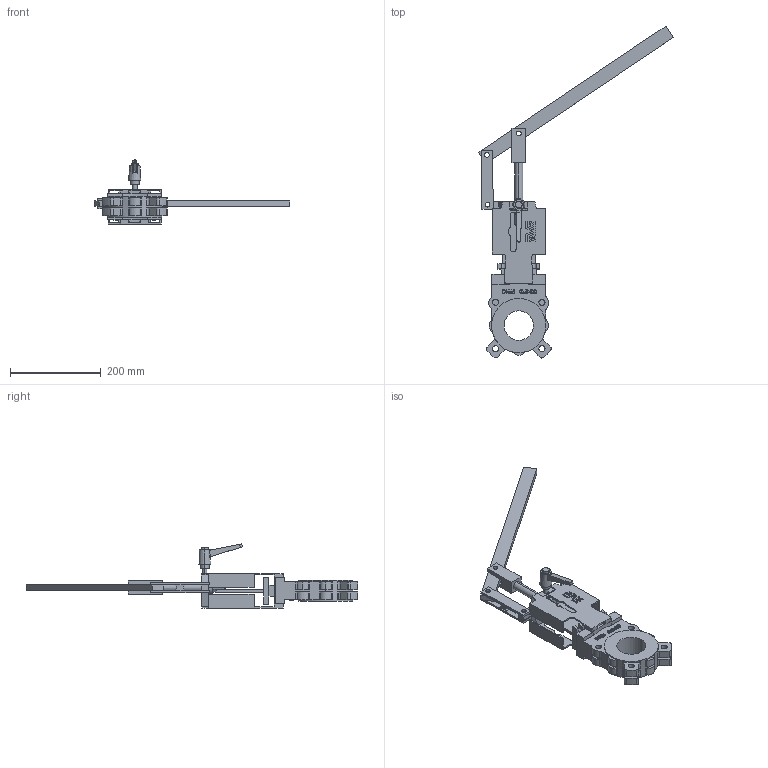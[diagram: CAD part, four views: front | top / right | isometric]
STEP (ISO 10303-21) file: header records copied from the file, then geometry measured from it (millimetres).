
FILE_DESCRIPTION (( 'STEP AP203' ), '1' );
FILE_NAME ('70206530034.STEP', '2017-03-24T13:02:02', ( '' ), ( '' ), 'SwSTEP 2.0', 'SolidWorks 2016', '' );
FILE_SCHEMA (( 'CONFIG_CONTROL_DESIGN' ));
Length unit declared in the file: millimetre
Products named in the file (1): 70206530034
Bounding box: 431.37 x 733.58 x 141.5 mm (x, y, z)
Volume: 1446699.1 mm3; surface area: 299460.7 mm2
Topology: 1 solids, 1 shells, 878 faces, 2475 edges, 1639 vertices
Faces by surface type: plane 444, cylinder 286, bspline 142, cone 6
Entity records: 37154 total; most frequent: CARTESIAN_POINT 14646, ORIENTED_EDGE 4950, DIRECTION 4253, EDGE_CURVE 2475, VERTEX_POINT 1639, VECTOR 1565, LINE 1565, AXIS2_PLACEMENT_3D 1344
